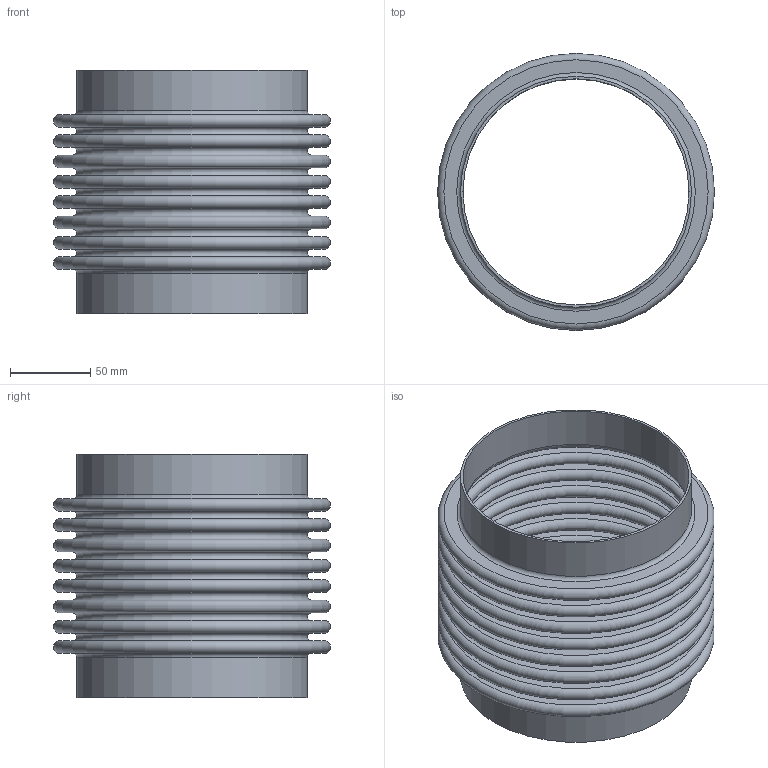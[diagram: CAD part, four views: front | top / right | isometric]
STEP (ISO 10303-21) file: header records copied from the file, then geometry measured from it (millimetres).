
FILE_DESCRIPTION(/* description */ ('STOCK BELLOWS: U.S-5-8-300S, 5.560 I.D., 6.810 O.D., 2 PLY, 22 GA (0.030 THICK), 8 CONS., 0.500 PITCH, 1.000 TANGENT. '),/* implementation_level */ '2;1');
FILE_NAME(/* name */ 'STOCK BELLOW - US-5-8-300S.stp',/* time_stamp */ '2026-07-21T13:26:25-05:00',/* author */ ('KennethB'),/* organization */ (''),/* preprocessor_version */ 'ST-DEVELOPER v20.1',/* originating_system */ 'Autodesk Inventor 2026',/* authorisation */ '');
FILE_SCHEMA (('AUTOMOTIVE_DESIGN { 1 0 10303 214 3 1 1 }'));
Length unit declared in the file: inch
Products named in the file (1): STOCK BELLOW - US-5-8-300S
Bounding box: 172.97 x 172.97 x 152.4 mm (x, y, z)
Volume: 251046 mm3; surface area: 333557.4 mm2
Topology: 3 solids, 3 shells, 76 faces, 114 edges, 77 vertices
Faces by surface type: plane 38, torus 34, cylinder 4
Full cylindrical faces by diameter (mm): 141.224 x2, 144.272 x2
Entity records: 1814 total; most frequent: DIRECTION 378, CARTESIAN_POINT 268, ORIENTED_EDGE 228, AXIS2_PLACEMENT_3D 187, EDGE_LOOP 114, EDGE_CURVE 114, CIRCLE 110, FACE_OUTER_BOUND 76
